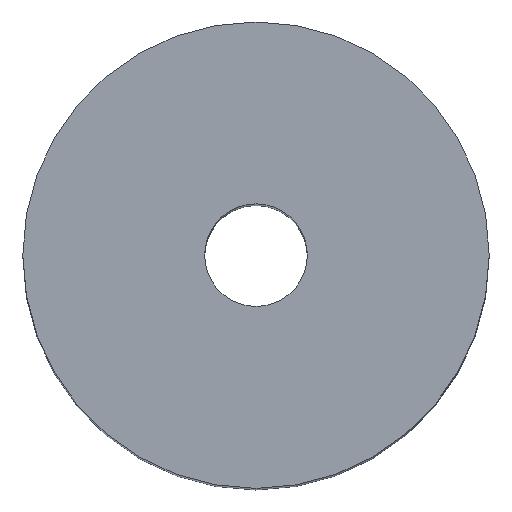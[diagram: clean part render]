
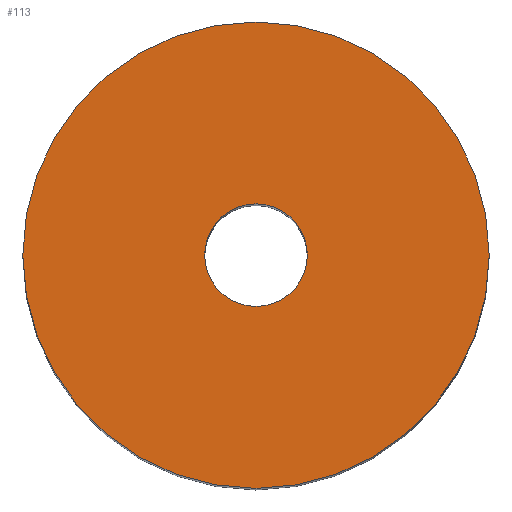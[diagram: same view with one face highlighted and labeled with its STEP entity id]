
A CAD part, top view. The second image highlights one B-rep face of the part: STEP entity #113.
In plain terms, the highlighted planar face has unit normal (0, 0, 1).
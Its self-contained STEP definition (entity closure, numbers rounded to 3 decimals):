
#113=ADVANCED_FACE('',(#121,#122),#119,.T.);
#119=PLANE('',#190);
#121=FACE_BOUND('',#125,.T.);
#122=FACE_BOUND('',#126,.T.);
#125=EDGE_LOOP('',(#133,#134));
#126=EDGE_LOOP('',(#135,#136));
#133=ORIENTED_EDGE('',*,*,#165,.T.);
#134=ORIENTED_EDGE('',*,*,#166,.T.);
#135=ORIENTED_EDGE('',*,*,#167,.F.);
#136=ORIENTED_EDGE('',*,*,#168,.F.);
#157=VERTEX_POINT('',#236);
#158=VERTEX_POINT('',#237);
#159=VERTEX_POINT('',#240);
#160=VERTEX_POINT('',#241);
#165=EDGE_CURVE('',#157,#158,#177,.T.);
#166=EDGE_CURVE('',#158,#157,#178,.T.);
#167=EDGE_CURVE('',#159,#160,#179,.T.);
#168=EDGE_CURVE('',#160,#159,#180,.T.);
#177=CIRCLE('',#186,50.);
#178=CIRCLE('',#187,50.);
#179=CIRCLE('',#188,11.);
#180=CIRCLE('',#189,11.);
#186=AXIS2_PLACEMENT_3D('',#235,#202,#203);
#187=AXIS2_PLACEMENT_3D('',#238,#204,#205);
#188=AXIS2_PLACEMENT_3D('',#239,#206,#207);
#189=AXIS2_PLACEMENT_3D('',#242,#208,#209);
#190=AXIS2_PLACEMENT_3D('',#243,#210,#211);
#202=DIRECTION('',(0.,0.,1.));
#203=DIRECTION('',(0.,1.,0.));
#204=DIRECTION('',(0.,0.,1.));
#205=DIRECTION('',(0.,-1.,0.));
#206=DIRECTION('',(0.,0.,1.));
#207=DIRECTION('',(0.,-1.,0.));
#208=DIRECTION('',(0.,0.,1.));
#209=DIRECTION('',(0.,1.,0.));
#210=DIRECTION('',(0.,0.,1.));
#211=DIRECTION('',(0.,1.,0.));
#235=CARTESIAN_POINT('',(0.,0.,200.));
#236=CARTESIAN_POINT('',(-50.,0.,200.));
#237=CARTESIAN_POINT('',(50.,0.,200.));
#238=CARTESIAN_POINT('',(0.,0.,200.));
#239=CARTESIAN_POINT('',(0.,0.,200.));
#240=CARTESIAN_POINT('',(11.,0.,200.));
#241=CARTESIAN_POINT('',(-11.,0.,200.));
#242=CARTESIAN_POINT('',(0.,0.,200.));
#243=CARTESIAN_POINT('',(0.,0.,200.));
